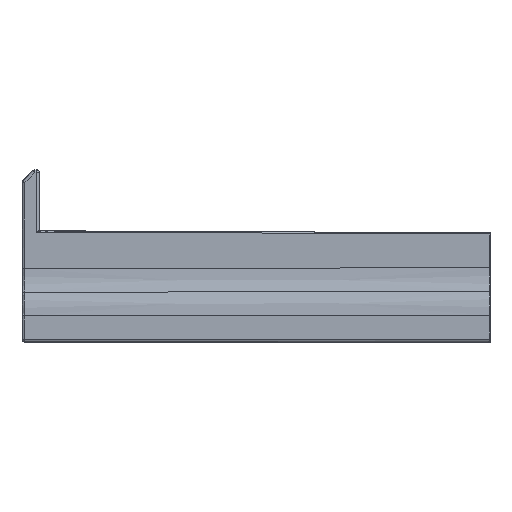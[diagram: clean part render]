
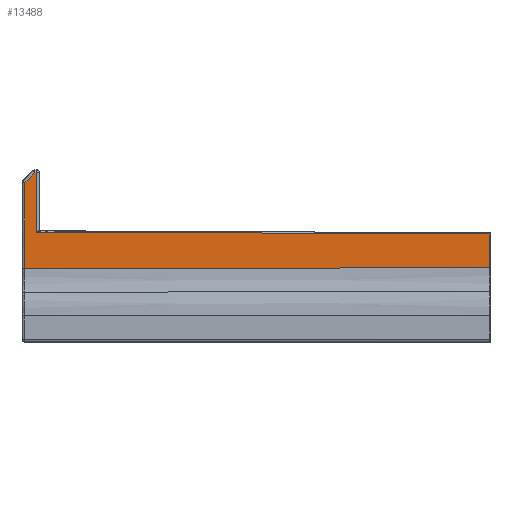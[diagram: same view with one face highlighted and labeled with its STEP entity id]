
A CAD part, left-side view. The second image highlights one B-rep face of the part: STEP entity #13488.
In plain terms, the highlighted planar face has unit normal (-1, 0.004, 0).
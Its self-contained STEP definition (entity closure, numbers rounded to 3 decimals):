
#219 = LINE ( 'NONE', #4570, #3768 ) ;
#223 = CARTESIAN_POINT ( 'NONE',  ( -55.338, -4.5, 9.603 ) ) ;
#409 = VERTEX_POINT ( 'NONE', #5391 ) ;
#470 = CARTESIAN_POINT ( 'NONE',  ( -54.999, 73.335, 9.937 ) ) ;
#504 = EDGE_CURVE ( 'NONE', #10169, #3066, #10131, .T. ) ;
#748 = CARTESIAN_POINT ( 'NONE',  ( -55.162, 35.951, 9.788 ) ) ;
#804 = ORIENTED_EDGE ( 'NONE', *, *, #10321, .T. ) ;
#878 = ORIENTED_EDGE ( 'NONE', *, *, #504, .T. ) ;
#1287 = CARTESIAN_POINT ( 'NONE',  ( -55.113, 47.004, 9.834 ) ) ;
#1296 = CARTESIAN_POINT ( 'NONE',  ( -55.338, -4.5, 3.784 ) ) ;
#1398 = CARTESIAN_POINT ( 'NONE',  ( -54.998, 73.502, 9. ) ) ;
#1538 = CARTESIAN_POINT ( 'NONE',  ( -55.128, 43.603, 9.82 ) ) ;
#1576 = VECTOR ( 'NONE', #12680, 1000. ) ;
#1620 = EDGE_CURVE ( 'NONE', #9080, #409, #12124, .T. ) ;
#1731 = LINE ( 'NONE', #6144, #8325 ) ;
#1805 = CARTESIAN_POINT ( 'NONE',  ( -55.165, 35.101, 9.784 ) ) ;
#2085 = DIRECTION ( 'NONE',  ( 0., 0., -1. ) ) ;
#2089 = CARTESIAN_POINT ( 'NONE',  ( -55., 73., 9.936 ) ) ;
#2213 = VECTOR ( 'NONE', #8256, 1000. ) ;
#2622 = B_SPLINE_CURVE_WITH_KNOTS ( 'NONE', 3,
 ( #15405, #12333, #7104, #16781, #3251, #11794, #13196 ),
 .UNSPECIFIED., .F., .F.,
 ( 4, 3, 4 ),
 ( 0., 0.028, 0.081 ),
 .UNSPECIFIED. ) ;
#2739 = PLANE ( 'NONE',  #15743 ) ;
#2786 = CARTESIAN_POINT ( 'NONE',  ( -54.996, 74., 20.13 ) ) ;
#2943 = CARTESIAN_POINT ( 'NONE',  ( -55.038, 64.335, 9.903 ) ) ;
#3066 = VERTEX_POINT ( 'NONE', #223 ) ;
#3198 = CARTESIAN_POINT ( 'NONE',  ( -55.169, 34.251, 9.781 ) ) ;
#3215 = VERTEX_POINT ( 'NONE', #7911 ) ;
#3251 = CARTESIAN_POINT ( 'NONE',  ( -55.187, 30.184, 3.74 ) ) ;
#3768 = VECTOR ( 'NONE', #2085, 1000. ) ;
#3805 = ORIENTED_EDGE ( 'NONE', *, *, #15968, .T. ) ;
#4267 = CARTESIAN_POINT ( 'NONE',  ( -54.997, 73.795, 20.13 ) ) ;
#4570 = CARTESIAN_POINT ( 'NONE',  ( -54.989, 75.502, 3.681 ) ) ;
#4607 = DIRECTION ( 'NONE',  ( 0., 0., 1. ) ) ;
#5194 = CARTESIAN_POINT ( 'NONE',  ( -54.989, 75.502, 18.423 ) ) ;
#5220 = EDGE_CURVE ( 'NONE', #12192, #3215, #219, .T. ) ;
#5391 = CARTESIAN_POINT ( 'NONE',  ( -54.998, 73.502, 20.13 ) ) ;
#6144 = CARTESIAN_POINT ( 'NONE',  ( -54.988, 75.648, 18.278 ) ) ;
#6287 = DIRECTION ( 'NONE',  ( -1., 0.004, 0. ) ) ;
#6290 = VERTEX_POINT ( 'NONE', #4267 ) ;
#6759 = CARTESIAN_POINT ( 'NONE',  ( -55.212, 24.478, 9.738 ) ) ;
#7103 = ORIENTED_EDGE ( 'NONE', *, *, #1620, .T. ) ;
#7104 = CARTESIAN_POINT ( 'NONE',  ( -55.07, 56.852, 3.706 ) ) ;
#7379 = VECTOR ( 'NONE', #4607, 1000. ) ;
#7869 = CARTESIAN_POINT ( 'NONE',  ( -55.338, -4.5, 9.603 ) ) ;
#7911 = CARTESIAN_POINT ( 'NONE',  ( -54.989, 75.502, 3.682 ) ) ;
#8256 = DIRECTION ( 'NONE',  ( 0., 0., 1. ) ) ;
#8325 = VECTOR ( 'NONE', #10540, 1000. ) ;
#8707 = CARTESIAN_POINT ( 'NONE',  ( -55.198, 27.735, 9.753 ) ) ;
#8970 = CARTESIAN_POINT ( 'NONE',  ( -55.158, 36.802, 9.791 ) ) ;
#9080 = VERTEX_POINT ( 'NONE', #15625 ) ;
#9638 = LINE ( 'NONE', #2786, #1576 ) ;
#10131 = LINE ( 'NONE', #14823, #7379 ) ;
#10142 = ORIENTED_EDGE ( 'NONE', *, *, #16006, .T. ) ;
#10169 = VERTEX_POINT ( 'NONE', #1296 ) ;
#10321 = EDGE_CURVE ( 'NONE', #3215, #10169, #2622, .T. ) ;
#10540 = DIRECTION ( 'NONE',  ( 0.003, 0.707, -0.707 ) ) ;
#11507 = FACE_OUTER_BOUND ( 'NONE', #14489, .T. ) ;
#11794 = CARTESIAN_POINT ( 'NONE',  ( -55.262, 12.842, 3.762 ) ) ;
#12124 = LINE ( 'NONE', #1398, #2213 ) ;
#12192 = VERTEX_POINT ( 'NONE', #5194 ) ;
#12261 = CARTESIAN_POINT ( 'NONE',  ( -54.998, 73.502, 9.938 ) ) ;
#12333 = CARTESIAN_POINT ( 'NONE',  ( -55.03, 66.177, 3.694 ) ) ;
#12641 = CARTESIAN_POINT ( 'NONE',  ( -55., 73., 9. ) ) ;
#12680 = DIRECTION ( 'NONE',  ( 0.004, 1., 0. ) ) ;
#12853 = CARTESIAN_POINT ( 'NONE',  ( -55.076, 55.669, 9.869 ) ) ;
#12923 = ORIENTED_EDGE ( 'NONE', *, *, #15851, .T. ) ;
#13132 = CARTESIAN_POINT ( 'NONE',  ( -54.999, 73.167, 9.937 ) ) ;
#13196 = CARTESIAN_POINT ( 'NONE',  ( -55.338, -4.5, 3.784 ) ) ;
#13421 = CARTESIAN_POINT ( 'NONE',  ( -55.296, 5.159, 9.651 ) ) ;
#13488 = ADVANCED_FACE ( 'NONE', ( #11507 ), #2739, .T. ) ;
#14489 = EDGE_LOOP ( 'NONE', ( #3805, #7103, #10142, #12923, #16585, #804, #878 ) ) ;
#14508 = CARTESIAN_POINT ( 'NONE',  ( -55.254, 14.818, 9.696 ) ) ;
#14611 = B_SPLINE_CURVE_WITH_KNOTS ( 'NONE', 3,
 ( #7869, #13421, #14508, #6759, #8707, #15900, #3198, #1805, #748, #8970, #17000, #1538, #1287, #12853, #2943, #2089, #13132, #470, #12261 ),
 .UNSPECIFIED., .F., .F.,
 ( 4, 3, 3, 3, 3, 3, 4 ),
 ( 0., 0.029, 0.039, 0.041, 0.052, 0.078, 0.078 ),
 .UNSPECIFIED. ) ;
#14823 = CARTESIAN_POINT ( 'NONE',  ( -55.338, -4.5, 9. ) ) ;
#15405 = CARTESIAN_POINT ( 'NONE',  ( -54.989, 75.502, 3.682 ) ) ;
#15625 = CARTESIAN_POINT ( 'NONE',  ( -54.998, 73.502, 9.938 ) ) ;
#15743 = AXIS2_PLACEMENT_3D ( 'NONE', #12641, #6287, #16248 ) ;
#15851 = EDGE_CURVE ( 'NONE', #6290, #12192, #1731, .T. ) ;
#15900 = CARTESIAN_POINT ( 'NONE',  ( -55.183, 30.993, 9.767 ) ) ;
#15968 = EDGE_CURVE ( 'NONE', #3066, #9080, #14611, .T. ) ;
#16006 = EDGE_CURVE ( 'NONE', #409, #6290, #9638, .T. ) ;
#16248 = DIRECTION ( 'NONE',  ( -0.004, -1., 0. ) ) ;
#16585 = ORIENTED_EDGE ( 'NONE', *, *, #5220, .T. ) ;
#16781 = CARTESIAN_POINT ( 'NONE',  ( -55.111, 47.526, 3.718 ) ) ;
#17000 = CARTESIAN_POINT ( 'NONE',  ( -55.143, 40.202, 9.806 ) ) ;
